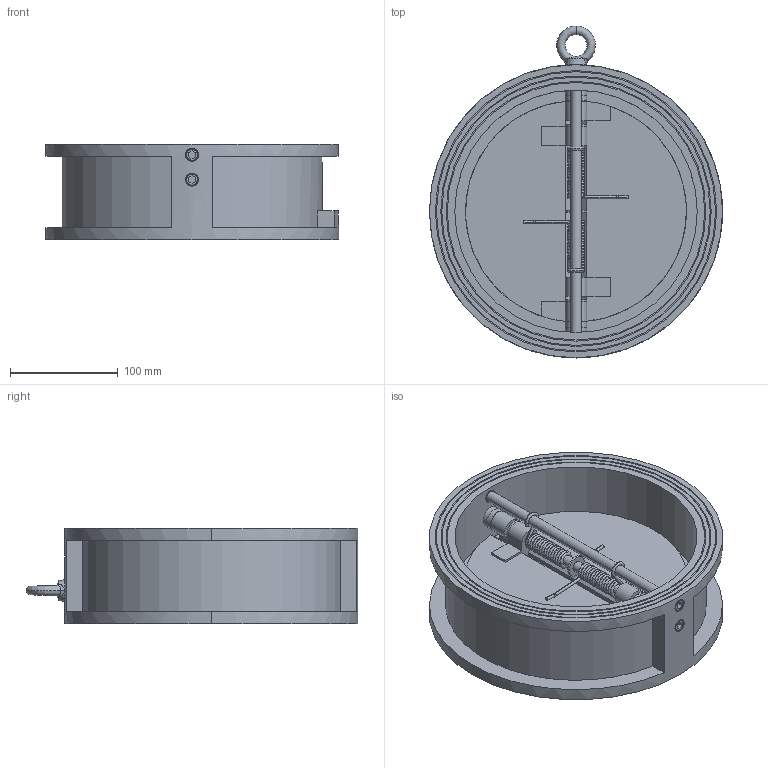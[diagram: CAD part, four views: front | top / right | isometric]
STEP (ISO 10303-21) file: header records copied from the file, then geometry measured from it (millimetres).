
FILE_DESCRIPTION((''),'2;1');
FILE_NAME('CV-16WS_SB_ASM','2026-03-24T',('user'),(''),'PRO/ENGINEER BY PARAMETRIC TECHNOLOGY CORPORATION, 2011220','PRO/ENGINEER BY PARAMETRIC TECHNOLOGY CORPORATION, 2011220','');
FILE_SCHEMA(('CONFIG_CONTROL_DESIGN'));
Length unit declared in the file: millimetre
Products named in the file (12): CV-16WS_KORPUS; CV-16WS_DET_2; CV-16WS_DET_3; CV-16WS_DET_4_SHTOK; CV-16WS_DET_5; CV-16WS_DET_6; CV-16WS_DET_7; CV-16WS_DET_8; CV-16WS_DET_9; CV-16WS_DET_10; RYM-BOLT_M8_GOST_4751; CV-16WS_SB_ASM
Assembly tree (25 placements, depth 2):
  CV-16WS_SB_ASM
    CV-16WS_KORPUS
    CV-16WS_DET_2  x2
    CV-16WS_DET_3  x2
    CV-16WS_DET_4_SHTOK  x2
    CV-16WS_DET_5  x4
    CV-16WS_DET_6  x2
    CV-16WS_DET_7  x4
    CV-16WS_DET_8  x4
    CV-16WS_DET_9  x2
    CV-16WS_DET_10
    RYM-BOLT_M8_GOST_4751
Bounding box: 272 x 308 x 89 mm (x, y, z)
Volume: 1809032.5 mm3; surface area: 397213.4 mm2
Topology: 25 solids, 35 shells, 367 faces, 856 edges, 554 vertices
Faces by surface type: plane 155, cylinder 140, torus 30, bspline 24, cone 14, revolution 4
Entity records: 15808 total; most frequent: CARTESIAN_POINT 10191, DIRECTION 1149, ORIENTED_EDGE 1042, EDGE_CURVE 545, AXIS2_PLACEMENT_3D 467, VERTEX_POINT 356, EDGE_LOOP 271, FACE_OUTER_BOUND 226
